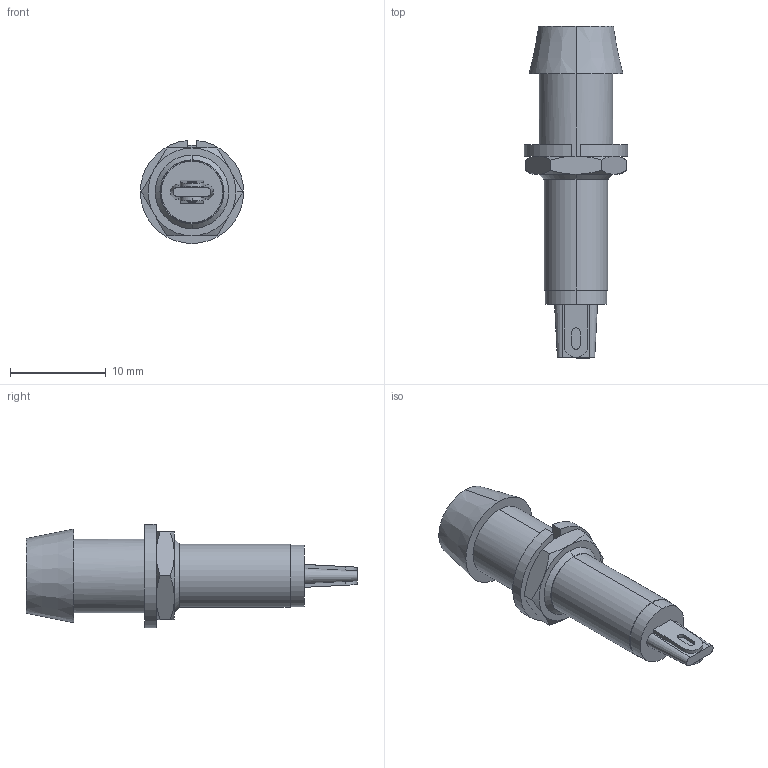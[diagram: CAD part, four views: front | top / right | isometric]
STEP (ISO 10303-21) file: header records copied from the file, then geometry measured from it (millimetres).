
FILE_DESCRIPTION (( 'STEP AP203' ), '1' );
FILE_NAME ('TPN-08.STEP', '2018-02-07T13:36:43', ( '' ), ( '' ), 'SwSTEP 2.0', 'SolidWorks 2012', '' );
FILE_SCHEMA (( 'CONFIG_CONTROL_DESIGN' ));
Length unit declared in the file: millimetre
Products named in the file (1): TPN-08
Bounding box: 10.79 x 34.7 x 10.78 mm (x, y, z)
Volume: 1351.9 mm3; surface area: 1029 mm2
Topology: 1 solids, 1 shells, 79 faces, 187 edges, 117 vertices
Faces by surface type: plane 35, cone 23, cylinder 19, sphere 2
Entity records: 2398 total; most frequent: CARTESIAN_POINT 486, DIRECTION 399, ORIENTED_EDGE 370, EDGE_CURVE 185, AXIS2_PLACEMENT_3D 158, VERTEX_POINT 117, EDGE_LOOP 88, LINE 83
